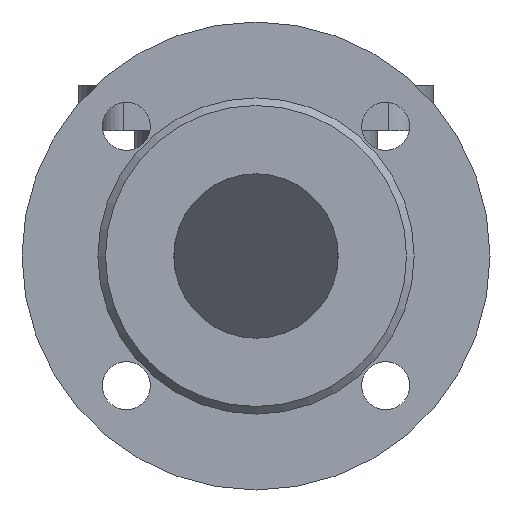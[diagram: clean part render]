
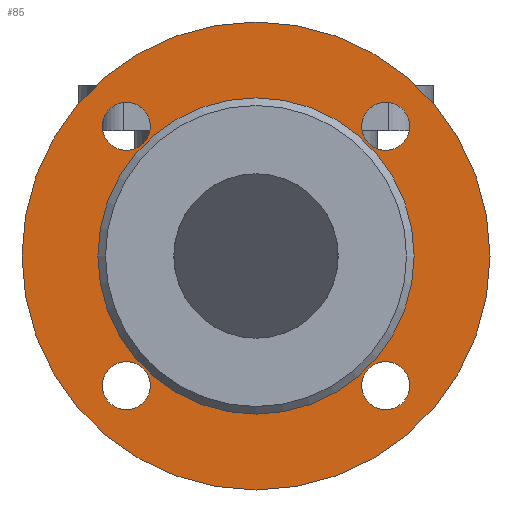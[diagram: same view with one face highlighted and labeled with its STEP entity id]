
A CAD part, front view. The second image highlights one B-rep face of the part: STEP entity #85.
In plain terms, the highlighted planar face has unit normal (0, -1, 0).
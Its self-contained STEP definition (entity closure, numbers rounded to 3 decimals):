
#85=ADVANCED_FACE('',(#642,#644,#646,#648,#650,#652),#654,.T.);
#642=FACE_BOUND('',#643,.T.);
#643=EDGE_LOOP('',(#2296));
#644=FACE_BOUND('',#645,.T.);
#645=EDGE_LOOP('',(#2297));
#646=FACE_BOUND('',#647,.T.);
#647=EDGE_LOOP('',(#2298));
#648=FACE_BOUND('',#649,.T.);
#649=EDGE_LOOP('',(#2299));
#650=FACE_BOUND('',#651,.T.);
#651=EDGE_LOOP('',(#2300));
#652=FACE_BOUND('',#653,.T.);
#653=EDGE_LOOP('',(#2301));
#654=PLANE('',#655);
#655=AXIS2_PLACEMENT_3D('',#656,#657,#658);
#656=CARTESIAN_POINT('',(0.,-105.,0.));
#657=DIRECTION('',(0.,-1.,0.));
#658=DIRECTION('',(0.,0.,1.));
#2296=ORIENTED_EDGE('',*,*,#2548,.F.);
#2297=ORIENTED_EDGE('',*,*,#2549,.T.);
#2298=ORIENTED_EDGE('',*,*,#2550,.T.);
#2299=ORIENTED_EDGE('',*,*,#2551,.T.);
#2300=ORIENTED_EDGE('',*,*,#2547,.T.);
#2301=ORIENTED_EDGE('',*,*,#2552,.T.);
#2547=EDGE_CURVE('',#2673,#2673,#2674,.T.);
#2548=EDGE_CURVE('',#2675,#2675,#2676,.T.);
#2549=EDGE_CURVE('',#2677,#2677,#2678,.F.);
#2550=EDGE_CURVE('',#2679,#2679,#2680,.F.);
#2551=EDGE_CURVE('',#2681,#2681,#2682,.F.);
#2552=EDGE_CURVE('',#2683,#2683,#2684,.F.);
#2673=VERTEX_POINT('',#2892);
#2674=CIRCLE('',#2893,62.5);
#2675=VERTEX_POINT('',#2897);
#2676=CIRCLE('',#2898,92.5);
#2677=VERTEX_POINT('',#2902);
#2678=CIRCLE('',#2903,9.5);
#2679=VERTEX_POINT('',#2907);
#2680=CIRCLE('',#2908,9.5);
#2681=VERTEX_POINT('',#2912);
#2682=CIRCLE('',#2913,9.5);
#2683=VERTEX_POINT('',#2917);
#2684=CIRCLE('',#2918,9.5);
#2892=CARTESIAN_POINT('',(0.,-105.,62.5));
#2893=AXIS2_PLACEMENT_3D('',#2894,#2895,#2896);
#2894=CARTESIAN_POINT('',(0.,-105.,0.));
#2895=DIRECTION('',(0.,1.,0.));
#2896=DIRECTION('',(0.,0.,1.));
#2897=CARTESIAN_POINT('',(0.,-105.,92.5));
#2898=AXIS2_PLACEMENT_3D('',#2899,#2900,#2901);
#2899=CARTESIAN_POINT('',(0.,-105.,0.));
#2900=DIRECTION('',(0.,1.,0.));
#2901=DIRECTION('',(0.,0.,1.));
#2902=CARTESIAN_POINT('',(51.265,-105.,41.765));
#2903=AXIS2_PLACEMENT_3D('',#2904,#2905,#2906);
#2904=CARTESIAN_POINT('',(51.265,-105.,51.265));
#2905=DIRECTION('',(0.,-1.,0.));
#2906=DIRECTION('',(0.,0.,-1.));
#2907=CARTESIAN_POINT('',(41.765,-105.,-51.265));
#2908=AXIS2_PLACEMENT_3D('',#2909,#2910,#2911);
#2909=CARTESIAN_POINT('',(51.265,-105.,-51.265));
#2910=DIRECTION('',(0.,-1.,0.));
#2911=DIRECTION('',(-1.,0.,0.));
#2912=CARTESIAN_POINT('',(-51.265,-105.,-41.765));
#2913=AXIS2_PLACEMENT_3D('',#2914,#2915,#2916);
#2914=CARTESIAN_POINT('',(-51.265,-105.,-51.265));
#2915=DIRECTION('',(0.,-1.,0.));
#2916=DIRECTION('',(0.,0.,1.));
#2917=CARTESIAN_POINT('',(-41.765,-105.,51.265));
#2918=AXIS2_PLACEMENT_3D('',#2919,#2920,#2921);
#2919=CARTESIAN_POINT('',(-51.265,-105.,51.265));
#2920=DIRECTION('',(0.,-1.,0.));
#2921=DIRECTION('',(1.,0.,0.));
